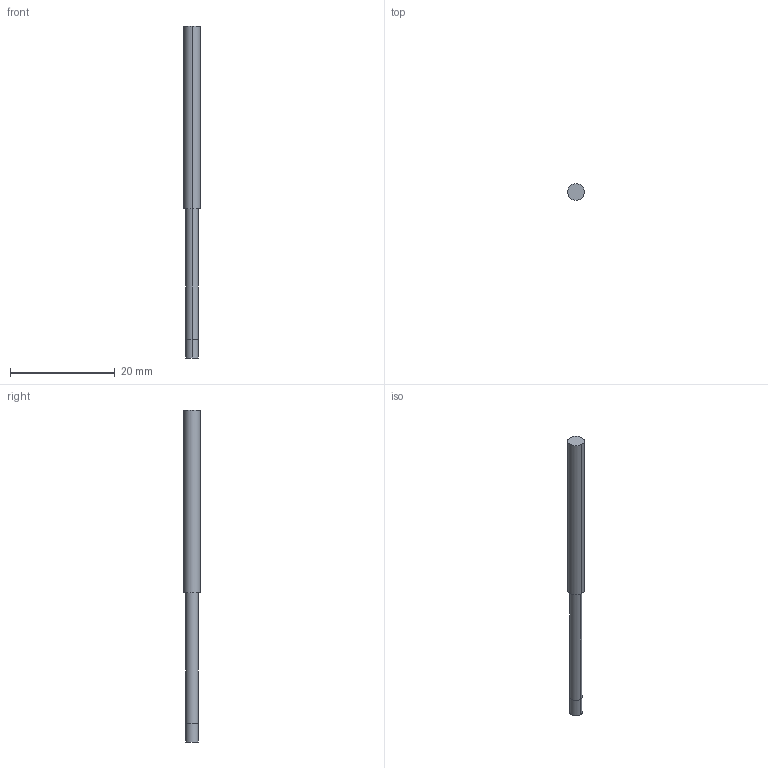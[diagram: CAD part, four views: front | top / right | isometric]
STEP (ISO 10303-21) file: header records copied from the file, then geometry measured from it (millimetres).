
FILE_DESCRIPTION((' '),'2;1');
FILE_NAME( '3MVS0938N12AH.stp', '2026-01-21T19:09:21', (' '), ('--- Datakit www.datakit.com---'), ' Datakit CrossCadWare V2025.4 Sep 19 2025', 'Mastercam 2027', ' ');
FILE_SCHEMA(('AUTOMOTIVE_DESIGN { 1 0 10303 214 1 1 1 1 }'));
Length unit declared in the file: inch
Products named in the file (1): 3MVS0938N12AH
Bounding box: 3.17 x 3.17 x 63.5 mm (x, y, z)
Volume: 403.9 mm3; surface area: 578.1 mm2
Topology: 1 solids, 1 shells, 9 faces, 16 edges, 10 vertices
Faces by surface type: cylinder 6, plane 3
Entity records: 302 total; most frequent: DIRECTION 54, CARTESIAN_POINT 40, ORIENTED_EDGE 32, AXIS2_PLACEMENT_3D 24, EDGE_CURVE 16, VERTEX_POINT 10, CIRCLE 10, EDGE_LOOP 10
